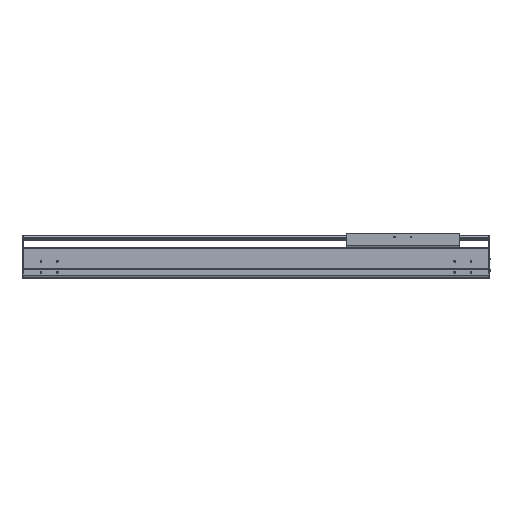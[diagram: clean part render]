
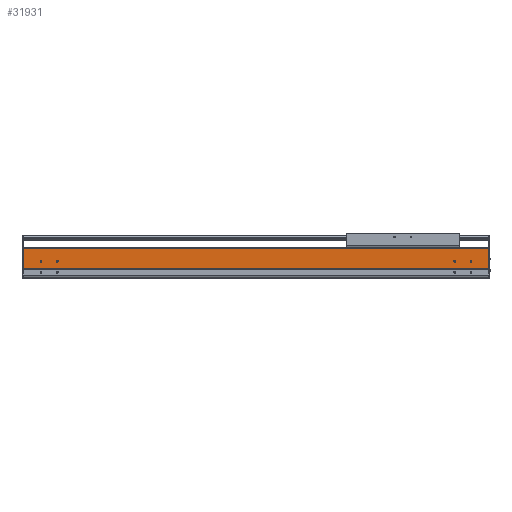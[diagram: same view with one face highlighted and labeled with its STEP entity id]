
A CAD part, top view. The second image highlights one B-rep face of the part: STEP entity #31931.
In plain terms, the highlighted planar face has unit normal (0, 0, -1).
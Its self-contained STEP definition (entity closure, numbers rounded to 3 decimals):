
#22666=DIRECTION('',(-1.,0.,0.));
#22667=VECTOR('',#22666,1439.);
#22668=CARTESIAN_POINT('',(0.,93.5,107.));
#22669=LINE('',#22668,#22667);
#22674=DIRECTION('',(0.,-1.,0.));
#22675=VECTOR('',#22674,61.4);
#22676=CARTESIAN_POINT('',(-1439.,93.5,107.));
#22677=LINE('',#22676,#22675);
#22678=DIRECTION('',(1.,0.,0.));
#22679=VECTOR('',#22678,1439.);
#22680=CARTESIAN_POINT('',(-1439.,32.1,107.));
#22681=LINE('',#22680,#22679);
#22682=CARTESIAN_POINT('',(-54.5,54.,107.));
#22683=DIRECTION('',(0.,0.,-1.));
#22684=DIRECTION('',(1.,0.,0.));
#22685=AXIS2_PLACEMENT_3D('',#22682,#22683,#22684);
#22687=CARTESIAN_POINT('',(-54.5,54.,107.));
#22688=DIRECTION('',(0.,0.,-1.));
#22689=DIRECTION('',(-1.,0.,0.));
#22690=AXIS2_PLACEMENT_3D('',#22687,#22688,#22689);
#22692=CARTESIAN_POINT('',(-104.5,54.,107.));
#22693=DIRECTION('',(0.,0.,-1.));
#22694=DIRECTION('',(1.,0.,0.));
#22695=AXIS2_PLACEMENT_3D('',#22692,#22693,#22694);
#22697=CARTESIAN_POINT('',(-104.5,54.,107.));
#22698=DIRECTION('',(0.,0.,-1.));
#22699=DIRECTION('',(-1.,0.,0.));
#22700=AXIS2_PLACEMENT_3D('',#22697,#22698,#22699);
#22702=CARTESIAN_POINT('',(-1384.5,54.,107.));
#22703=DIRECTION('',(0.,0.,-1.));
#22704=DIRECTION('',(1.,0.,0.));
#22705=AXIS2_PLACEMENT_3D('',#22702,#22703,#22704);
#22707=CARTESIAN_POINT('',(-1384.5,54.,107.));
#22708=DIRECTION('',(0.,0.,-1.));
#22709=DIRECTION('',(-1.,0.,0.));
#22710=AXIS2_PLACEMENT_3D('',#22707,#22708,#22709);
#22712=CARTESIAN_POINT('',(-1334.5,54.,107.));
#22713=DIRECTION('',(0.,0.,-1.));
#22714=DIRECTION('',(1.,0.,0.));
#22715=AXIS2_PLACEMENT_3D('',#22712,#22713,#22714);
#22717=CARTESIAN_POINT('',(-1334.5,54.,107.));
#22718=DIRECTION('',(0.,0.,-1.));
#22719=DIRECTION('',(-1.,0.,0.));
#22720=AXIS2_PLACEMENT_3D('',#22717,#22718,#22719);
#23907=DIRECTION('',(0.,-1.,0.));
#23908=VECTOR('',#23907,61.4);
#23909=CARTESIAN_POINT('',(0.,93.5,107.));
#23910=LINE('',#23909,#23908);
#28436=CARTESIAN_POINT('',(-1439.,32.1,107.));
#28437=VERTEX_POINT('',#28436);
#28438=CARTESIAN_POINT('',(-1439.,93.5,107.));
#28439=VERTEX_POINT('',#28438);
#29247=CARTESIAN_POINT('',(0.,32.1,107.));
#29248=VERTEX_POINT('',#29247);
#29249=CARTESIAN_POINT('',(0.,93.5,107.));
#29250=VERTEX_POINT('',#29249);
#29251=CARTESIAN_POINT('',(-52.,54.,107.));
#29252=CARTESIAN_POINT('',(-57.,54.,107.));
#29253=VERTEX_POINT('',#29251);
#29254=VERTEX_POINT('',#29252);
#29255=CARTESIAN_POINT('',(-102.,54.,107.));
#29256=CARTESIAN_POINT('',(-107.,54.,107.));
#29257=VERTEX_POINT('',#29255);
#29258=VERTEX_POINT('',#29256);
#29259=CARTESIAN_POINT('',(-1382.,54.,107.));
#29260=CARTESIAN_POINT('',(-1387.,54.,107.));
#29261=VERTEX_POINT('',#29259);
#29262=VERTEX_POINT('',#29260);
#29263=CARTESIAN_POINT('',(-1332.,54.,107.));
#29264=CARTESIAN_POINT('',(-1337.,54.,107.));
#29265=VERTEX_POINT('',#29263);
#29266=VERTEX_POINT('',#29264);
#31894=CARTESIAN_POINT('',(-719.5,62.8,107.));
#31895=DIRECTION('',(0.,0.,1.));
#31896=DIRECTION('',(0.,-1.,0.));
#31897=AXIS2_PLACEMENT_3D('',#31894,#31895,#31896);
#31898=PLANE('',#31897);
#31899=ORIENTED_EDGE('',*,*,#30198,.T.);
#31901=ORIENTED_EDGE('',*,*,#31900,.T.);
#31903=ORIENTED_EDGE('',*,*,#31902,.F.);
#31904=ORIENTED_EDGE('',*,*,#31886,.T.);
#31905=EDGE_LOOP('',(#31899,#31901,#31903,#31904));
#31906=FACE_OUTER_BOUND('',#31905,.F.);
#31908=ORIENTED_EDGE('',*,*,#31907,.T.);
#31910=ORIENTED_EDGE('',*,*,#31909,.T.);
#31911=EDGE_LOOP('',(#31908,#31910));
#31912=FACE_BOUND('',#31911,.F.);
#31914=ORIENTED_EDGE('',*,*,#31913,.T.);
#31916=ORIENTED_EDGE('',*,*,#31915,.T.);
#31917=EDGE_LOOP('',(#31914,#31916));
#31918=FACE_BOUND('',#31917,.F.);
#31920=ORIENTED_EDGE('',*,*,#31919,.T.);
#31922=ORIENTED_EDGE('',*,*,#31921,.T.);
#31923=EDGE_LOOP('',(#31920,#31922));
#31924=FACE_BOUND('',#31923,.F.);
#31926=ORIENTED_EDGE('',*,*,#31925,.T.);
#31928=ORIENTED_EDGE('',*,*,#31927,.T.);
#31929=EDGE_LOOP('',(#31926,#31928));
#31930=FACE_BOUND('',#31929,.F.);
#31931=ADVANCED_FACE('',(#31906,#31912,#31918,#31924,#31930),#31898,.F.);
#22686=CIRCLE('',#22685,2.5);
#22691=CIRCLE('',#22690,2.5);
#22696=CIRCLE('',#22695,2.5);
#22701=CIRCLE('',#22700,2.5);
#22706=CIRCLE('',#22705,2.5);
#22711=CIRCLE('',#22710,2.5);
#22716=CIRCLE('',#22715,2.5);
#22721=CIRCLE('',#22720,2.5);
#30198=EDGE_CURVE('',#28439,#28437,#22677,.T.);
#31886=EDGE_CURVE('',#29250,#28439,#22669,.T.);
#31900=EDGE_CURVE('',#28437,#29248,#22681,.T.);
#31902=EDGE_CURVE('',#29250,#29248,#23910,.T.);
#31907=EDGE_CURVE('',#29253,#29254,#22686,.T.);
#31909=EDGE_CURVE('',#29254,#29253,#22691,.T.);
#31913=EDGE_CURVE('',#29257,#29258,#22696,.T.);
#31915=EDGE_CURVE('',#29258,#29257,#22701,.T.);
#31919=EDGE_CURVE('',#29261,#29262,#22706,.T.);
#31921=EDGE_CURVE('',#29262,#29261,#22711,.T.);
#31925=EDGE_CURVE('',#29265,#29266,#22716,.T.);
#31927=EDGE_CURVE('',#29266,#29265,#22721,.T.);
